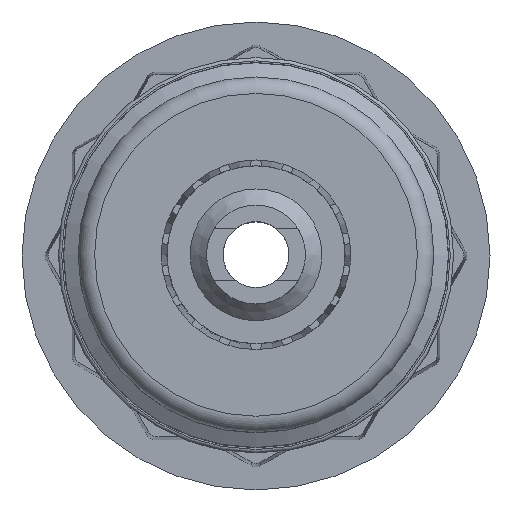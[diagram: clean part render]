
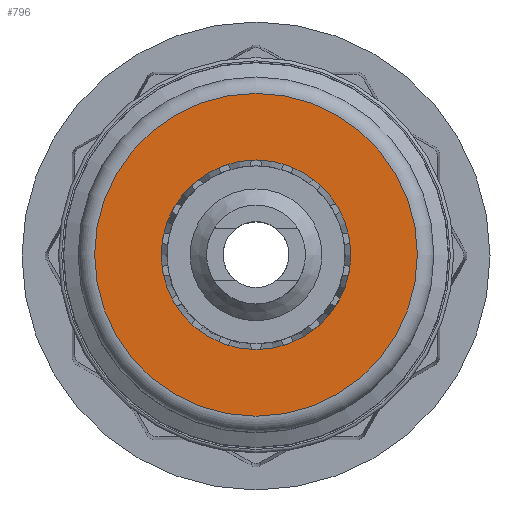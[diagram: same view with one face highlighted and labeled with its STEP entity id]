
A CAD part, top view. The second image highlights one B-rep face of the part: STEP entity #796.
In plain terms, the highlighted planar face has unit normal (0, 0, 1).
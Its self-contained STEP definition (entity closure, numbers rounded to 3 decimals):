
#51 = ORIENTED_EDGE ( 'NONE', *, *, #5585, .T. ) ;
#144 = ORIENTED_EDGE ( 'NONE', *, *, #3385, .F. ) ;
#237 = CIRCLE ( 'NONE', #1955, 2.879 ) ;
#796 = ADVANCED_FACE ( 'NONE', ( #4526, #2652 ), #3722, .F. ) ;
#923 = CARTESIAN_POINT ( 'NONE',  ( 0., 0., 24. ) ) ;
#946 = AXIS2_PLACEMENT_3D ( 'NONE', #5969, #971, #5387 ) ;
#957 = DIRECTION ( 'NONE',  ( 0., 0., 1. ) ) ;
#970 = EDGE_LOOP ( 'NONE', ( #144 ) ) ;
#971 = DIRECTION ( 'NONE',  ( 0., 0., -1. ) ) ;
#1003 = DIRECTION ( 'NONE',  ( 1., 0., 0. ) ) ;
#1955 = AXIS2_PLACEMENT_3D ( 'NONE', #923, #957, #1003 ) ;
#2652 = FACE_BOUND ( 'NONE', #970, .T. ) ;
#3116 = CARTESIAN_POINT ( 'NONE',  ( 2.879, 0., 24. ) ) ;
#3204 = DIRECTION ( 'NONE',  ( 0., 0., 1. ) ) ;
#3385 = EDGE_CURVE ( 'NONE', #5006, #5006, #237, .T. ) ;
#3722 = PLANE ( 'NONE',  #946 ) ;
#3725 = DIRECTION ( 'NONE',  ( -1., 0., 0. ) ) ;
#4526 = FACE_OUTER_BOUND ( 'NONE', #6626, .T. ) ;
#5006 = VERTEX_POINT ( 'NONE', #3116 ) ;
#5387 = DIRECTION ( 'NONE',  ( -1., 0., 0. ) ) ;
#5585 = EDGE_CURVE ( 'NONE', #5709, #5709, #6369, .T. ) ;
#5709 = VERTEX_POINT ( 'NONE', #5840 ) ;
#5840 = CARTESIAN_POINT ( 'NONE',  ( -4.9, 0., 24. ) ) ;
#5969 = CARTESIAN_POINT ( 'NONE',  ( 0., 5.4, 24. ) ) ;
#6369 = CIRCLE ( 'NONE', #6990, 4.9 ) ;
#6626 = EDGE_LOOP ( 'NONE', ( #51 ) ) ;
#6990 = AXIS2_PLACEMENT_3D ( 'NONE', #7057, #3204, #3725 ) ;
#7057 = CARTESIAN_POINT ( 'NONE',  ( 0., 0., 24. ) ) ;
